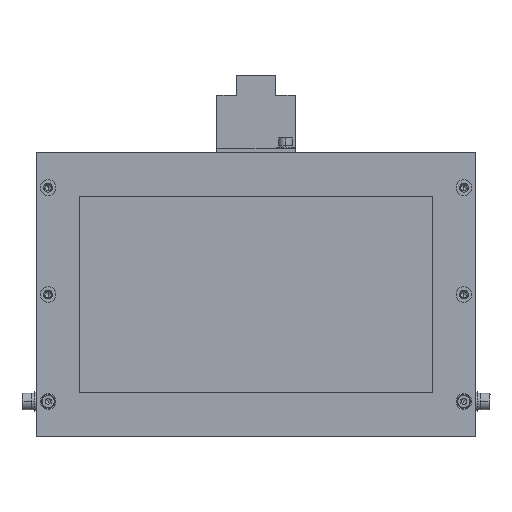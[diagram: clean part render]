
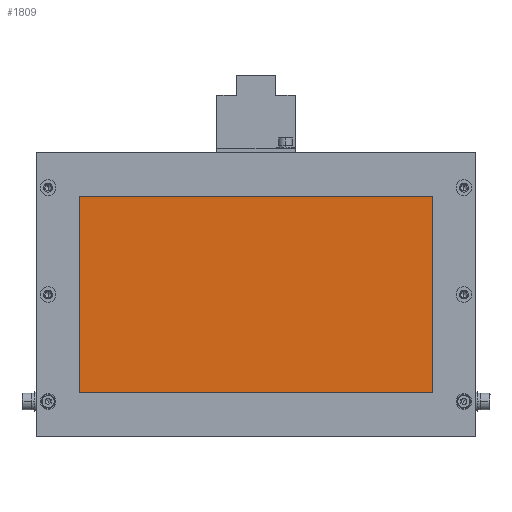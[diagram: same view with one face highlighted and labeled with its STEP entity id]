
A CAD part, top view. The second image highlights one B-rep face of the part: STEP entity #1809.
In plain terms, the highlighted planar face has unit normal (0, 0, 1) as drawn and (0, 1, 0) by its records, which use the part's own axes.
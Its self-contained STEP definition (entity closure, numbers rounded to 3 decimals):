
#1089 = ORIENTED_EDGE ( 'NONE', *, *, #13228, .F. ) ;
#1290 = LINE ( 'NONE', #11309, #5291 ) ;
#1341 = CARTESIAN_POINT ( 'NONE',  ( 90., 2., -100. ) ) ;
#1809 = ADVANCED_FACE ( 'NONE', ( #12903 ), #10805, .F. ) ;
#2373 = ORIENTED_EDGE ( 'NONE', *, *, #8539, .F. ) ;
#3198 = CARTESIAN_POINT ( 'NONE',  ( -90., 2., 0. ) ) ;
#3371 = LINE ( 'NONE', #14150, #11637 ) ;
#3631 = VECTOR ( 'NONE', #14417, 1000. ) ;
#4068 = DIRECTION ( 'NONE',  ( 0., 0., 1. ) ) ;
#4167 = LINE ( 'NONE', #3198, #3631 ) ;
#5147 = CARTESIAN_POINT ( 'NONE',  ( -90., 2., -100. ) ) ;
#5291 = VECTOR ( 'NONE', #11225, 1000. ) ;
#5920 = EDGE_CURVE ( 'NONE', #11252, #6751, #4167, .T. ) ;
#6751 = VERTEX_POINT ( 'NONE', #11700 ) ;
#7121 = ORIENTED_EDGE ( 'NONE', *, *, #5920, .F. ) ;
#7580 = EDGE_CURVE ( 'NONE', #10310, #11252, #3371, .T. ) ;
#7804 = LINE ( 'NONE', #5147, #8511 ) ;
#8511 = VECTOR ( 'NONE', #9806, 1000. ) ;
#8539 = EDGE_CURVE ( 'NONE', #9440, #10310, #1290, .T. ) ;
#8567 = AXIS2_PLACEMENT_3D ( 'NONE', #9858, #14164, #11909 ) ;
#8622 = CARTESIAN_POINT ( 'NONE',  ( -90., 2., -100. ) ) ;
#9440 = VERTEX_POINT ( 'NONE', #8622 ) ;
#9806 = DIRECTION ( 'NONE',  ( 0., 0., -1. ) ) ;
#9858 = CARTESIAN_POINT ( 'NONE',  ( -90., 2., -100. ) ) ;
#10310 = VERTEX_POINT ( 'NONE', #1341 ) ;
#10422 = ORIENTED_EDGE ( 'NONE', *, *, #7580, .F. ) ;
#10805 = PLANE ( 'NONE',  #8567 ) ;
#10934 = EDGE_LOOP ( 'NONE', ( #2373, #1089, #7121, #10422 ) ) ;
#11225 = DIRECTION ( 'NONE',  ( 1., 0., 0. ) ) ;
#11252 = VERTEX_POINT ( 'NONE', #13211 ) ;
#11309 = CARTESIAN_POINT ( 'NONE',  ( -90., 2., -100. ) ) ;
#11637 = VECTOR ( 'NONE', #4068, 1000. ) ;
#11700 = CARTESIAN_POINT ( 'NONE',  ( -90., 2., 0. ) ) ;
#11909 = DIRECTION ( 'NONE',  ( 0., 0., -1. ) ) ;
#12903 = FACE_OUTER_BOUND ( 'NONE', #10934, .T. ) ;
#13211 = CARTESIAN_POINT ( 'NONE',  ( 90., 2., 0. ) ) ;
#13228 = EDGE_CURVE ( 'NONE', #6751, #9440, #7804, .T. ) ;
#14150 = CARTESIAN_POINT ( 'NONE',  ( 90., 2., -100. ) ) ;
#14164 = DIRECTION ( 'NONE',  ( 0., -1., 0. ) ) ;
#14417 = DIRECTION ( 'NONE',  ( -1., 0., 0. ) ) ;
